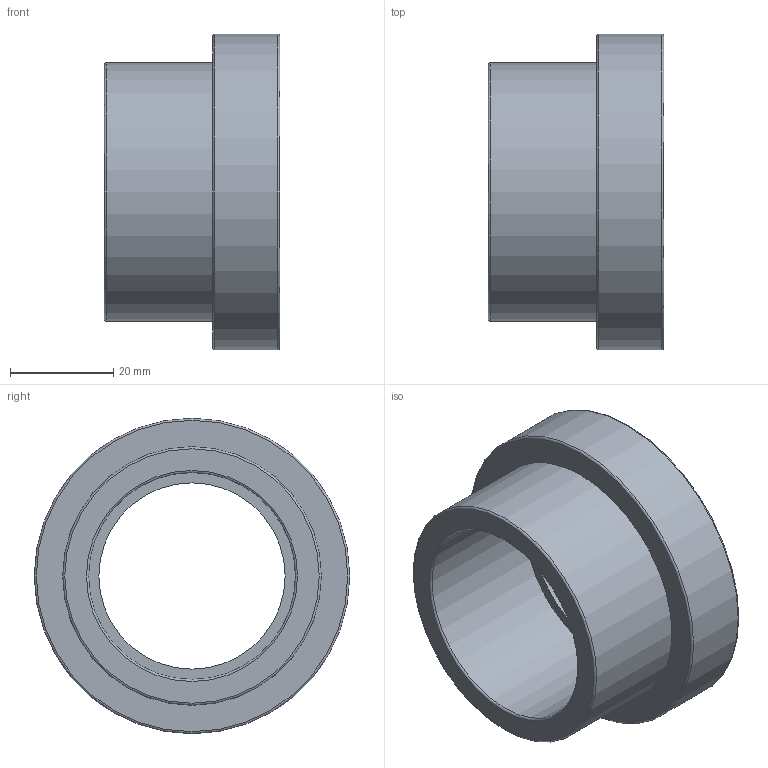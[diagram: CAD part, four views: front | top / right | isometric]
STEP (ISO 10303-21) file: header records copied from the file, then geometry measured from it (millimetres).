
FILE_DESCRIPTION(/* description */ ('PLASSON FLANGE AD.+O-RING-CE 40'),/* implementation_level */ '2;1');
FILE_NAME(/* name */ 'C:\Dropbox\KIMPROJECTS-Inventor\99-16-3568-Processing\PVC Catalog 2017\055000\055000040.ipt.stp',/* time_stamp */ '2017-12-07T16:04:34+02:00',/* author */ ('KIM'),/* organization */ (''),/* preprocessor_version */ 'ST-DEVELOPER v15.6',/* originating_system */ 'Autodesk Inventor 2015',/* authorisation */ '');
FILE_SCHEMA (('AUTOMOTIVE_DESIGN { 1 0 10303 214 3 1 1 }'));
Length unit declared in the file: millimetre
Products named in the file (1): 055000040
Bounding box: 34 x 61 x 61 mm (x, y, z)
Volume: 36154.8 mm3; surface area: 14721.2 mm2
Topology: 1 solids, 1 shells, 21 faces, 36 edges, 21 vertices
Faces by surface type: torus 9, plane 6, cylinder 6
Full cylindrical faces by diameter (mm): 36 x1, 40 x1, 44.75 x1, 50 x1, 52.25 x1, 61 x1
Entity records: 452 total; most frequent: DIRECTION 86, CARTESIAN_POINT 64, AXIS2_PLACEMENT_3D 43, EDGE_LOOP 42, ORIENTED_EDGE 42, FACE_BOUND 21, FACE_OUTER_BOUND 21, CIRCLE 21
